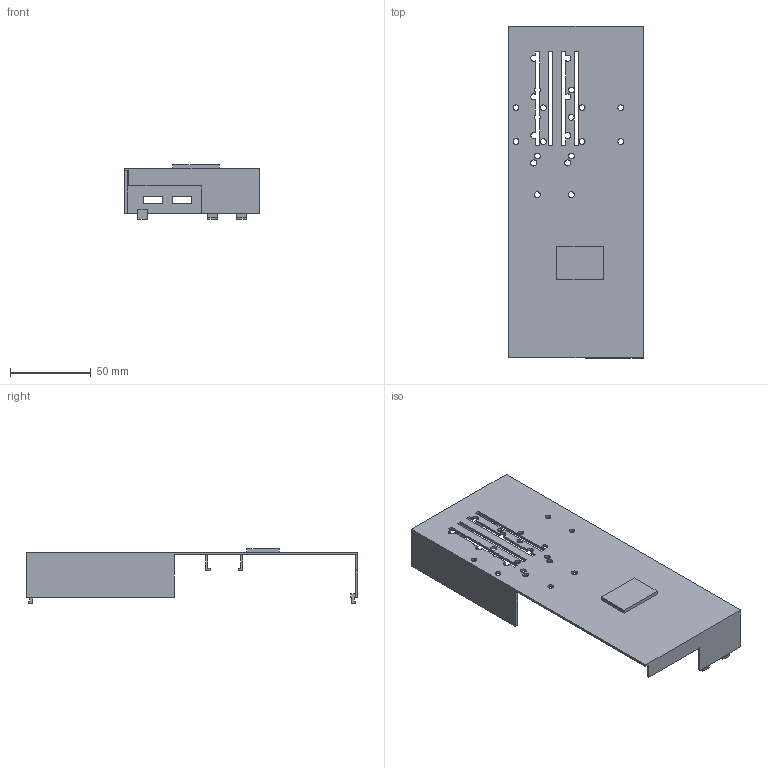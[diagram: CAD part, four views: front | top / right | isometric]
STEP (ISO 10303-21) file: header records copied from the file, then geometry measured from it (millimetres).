
FILE_DESCRIPTION(('Open CASCADE Model'),'2;1');
FILE_NAME('Open CASCADE Shape Model','2026-11-19T20:40:28',('Author'),( 'Open CASCADE'),'Open CASCADE STEP processor 8.0','Open CASCADE 8.0' ,'Unknown');
FILE_SCHEMA(('AUTOMOTIVE_DESIGN { 1 0 10303 214 1 1 1 1 }'));
Length unit declared in the file: millimetre
Products named in the file (1): Open CASCADE STEP translator 8.0 2
Bounding box: 83.35 x 206 x 33.9 mm (x, y, z)
Volume: 34299.1 mm3; surface area: 47879.7 mm2
Topology: 1 solids, 1 shells, 176 faces, 502 edges, 338 vertices
Faces by surface type: plane 150, cylinder 26
Full cylindrical faces by diameter (mm): 3.6 x12, 3.8 x2
Entity records: 12074 total; most frequent: CARTESIAN_POINT 2538, DIRECTION 1560, LINE 1051, VECTOR 1051, ORIENTED_EDGE 1004, PCURVE 1004, DEFINITIONAL_REPRESENTATION 1004, EDGE_CURVE 502
